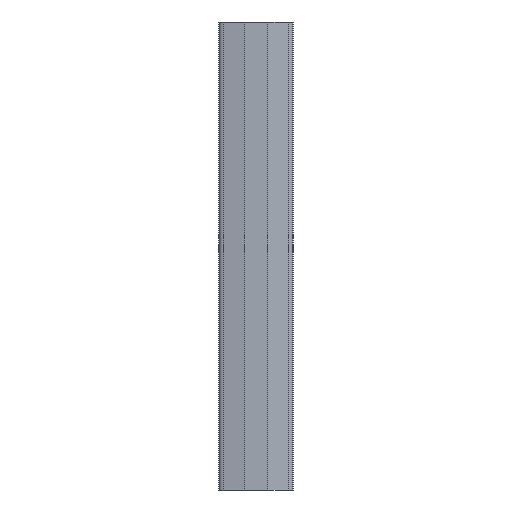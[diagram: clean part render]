
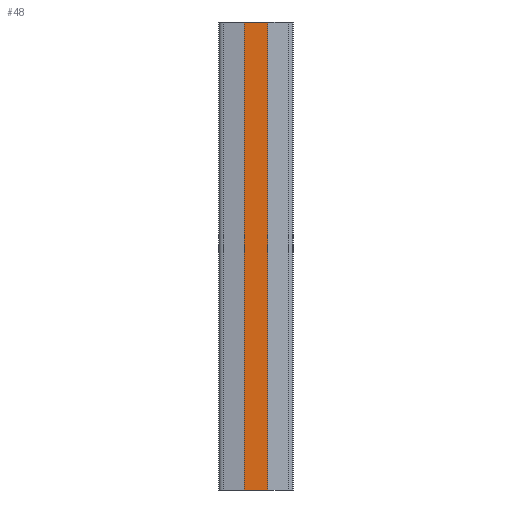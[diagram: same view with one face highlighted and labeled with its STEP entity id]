
A CAD part, left-side view. The second image highlights one B-rep face of the part: STEP entity #48.
In plain terms, the highlighted planar face has unit normal (-1, 0, 0).
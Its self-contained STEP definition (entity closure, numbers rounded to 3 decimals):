
#48 = ADVANCED_FACE ( 'NONE', ( #205 ), #2802, .T. ) ;
#81 = DIRECTION ( 'NONE',  ( 0., 0., 1. ) ) ;
#205 = FACE_OUTER_BOUND ( 'NONE', #1744, .T. ) ;
#222 = CARTESIAN_POINT ( 'NONE',  ( -17.815, 154.128, 0. ) ) ;
#242 = CARTESIAN_POINT ( 'NONE',  ( -17.815, 154.128, 0. ) ) ;
#284 = CARTESIAN_POINT ( 'NONE',  ( -17.815, 154.128, 0. ) ) ;
#411 = AXIS2_PLACEMENT_3D ( 'NONE', #222, #2364, #1355 ) ;
#479 = VECTOR ( 'NONE', #81, 1000. ) ;
#675 = CARTESIAN_POINT ( 'NONE',  ( -17.815, 104.128, 0. ) ) ;
#824 = VECTOR ( 'NONE', #2427, 1000. ) ;
#834 = VERTEX_POINT ( 'NONE', #2557 ) ;
#901 = CARTESIAN_POINT ( 'NONE',  ( -17.815, 154.128, 0. ) ) ;
#1008 = ORIENTED_EDGE ( 'NONE', *, *, #2717, .T. ) ;
#1078 = DIRECTION ( 'NONE',  ( 0., -1., 0. ) ) ;
#1091 = CARTESIAN_POINT ( 'NONE',  ( -17.815, 154.128, 1000. ) ) ;
#1105 = ORIENTED_EDGE ( 'NONE', *, *, #3005, .F. ) ;
#1355 = DIRECTION ( 'NONE',  ( 0., 0., 1. ) ) ;
#1744 = EDGE_LOOP ( 'NONE', ( #1008, #2671, #2409, #1105 ) ) ;
#1775 = VERTEX_POINT ( 'NONE', #242 ) ;
#2185 = VERTEX_POINT ( 'NONE', #675 ) ;
#2202 = LINE ( 'NONE', #284, #824 ) ;
#2218 = LINE ( 'NONE', #2441, #479 ) ;
#2280 = LINE ( 'NONE', #901, #2675 ) ;
#2324 = VERTEX_POINT ( 'NONE', #1091 ) ;
#2364 = DIRECTION ( 'NONE',  ( -1., 0., 0. ) ) ;
#2381 = EDGE_CURVE ( 'NONE', #2324, #834, #2746, .T. ) ;
#2409 = ORIENTED_EDGE ( 'NONE', *, *, #2381, .F. ) ;
#2427 = DIRECTION ( 'NONE',  ( 0., 0., 1. ) ) ;
#2441 = CARTESIAN_POINT ( 'NONE',  ( -17.815, 104.128, 0. ) ) ;
#2557 = CARTESIAN_POINT ( 'NONE',  ( -17.815, 104.128, 1000. ) ) ;
#2671 = ORIENTED_EDGE ( 'NONE', *, *, #2951, .T. ) ;
#2675 = VECTOR ( 'NONE', #1078, 1000. ) ;
#2717 = EDGE_CURVE ( 'NONE', #1775, #2185, #2280, .T. ) ;
#2725 = CARTESIAN_POINT ( 'NONE',  ( -17.815, 154.128, 1000. ) ) ;
#2746 = LINE ( 'NONE', #2725, #2769 ) ;
#2769 = VECTOR ( 'NONE', #2947, 1000. ) ;
#2802 = PLANE ( 'NONE',  #411 ) ;
#2947 = DIRECTION ( 'NONE',  ( 0., -1., 0. ) ) ;
#2951 = EDGE_CURVE ( 'NONE', #2185, #834, #2218, .T. ) ;
#3005 = EDGE_CURVE ( 'NONE', #1775, #2324, #2202, .T. ) ;
